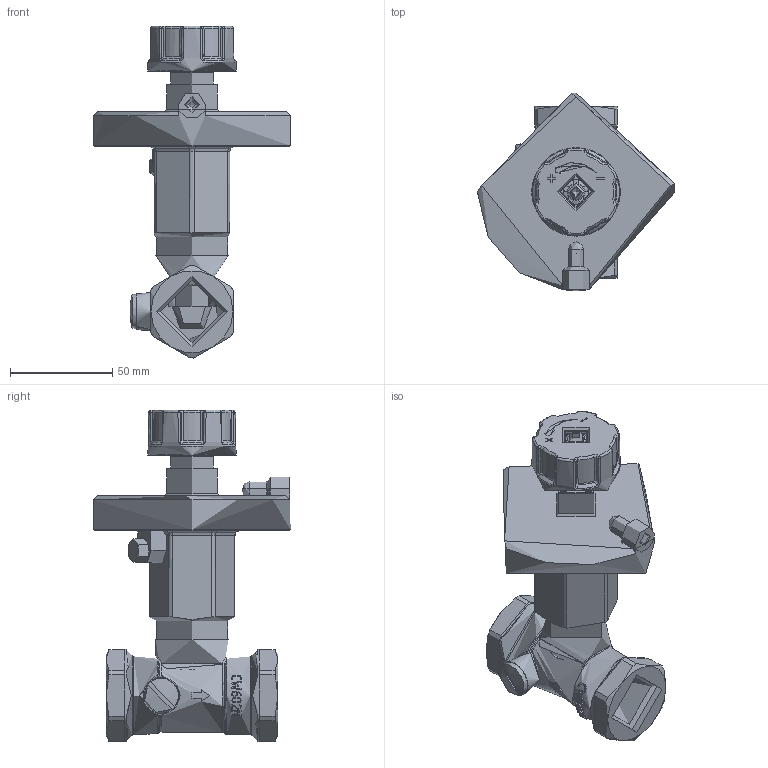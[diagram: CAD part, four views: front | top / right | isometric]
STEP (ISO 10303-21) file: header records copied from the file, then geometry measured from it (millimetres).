
FILE_DESCRIPTION(('STEP AP203'), '1');
FILE_NAME('VT.060.N.25006', '', ('UNSPECIFIED'), ('UNSPECIFIED'), 'C3D Converter', 'C3D Toolkit', '');
FILE_SCHEMA(('CONFIG_CONTROL_DESIGN'));
Length unit declared in the file: millimetre
Bounding box: 96.4 x 96.4 x 162.15 mm (x, y, z)
Topology: 1 solids, 9 shells, 1132 faces, 3052 edges, 1904 vertices
Faces by surface type: plane 386, extrusion 249, bspline 165, cylinder 163, cone 111, torus 55, sphere 3
Full cylindrical faces by diameter (mm): 3 x7, 4.1 x1, 5 x2, 5.1 x1, 5.5 x1, 6.1 x1, 6.5 x1, 6.561 x2, 6.6 x2, 7.2 x1, 7.7 x1, 7.723 x1, 8 x3, 8.5 x2, 8.9 x1, 11 x1, 11.445 x1, 13.3 x1, 14 x3, 14.2 x1, 14.3 x1, 16 x1, 16.1 x1, 17 x1, 21 x1, 24.7 x1, 30 x1, 30.292 x2, 34.5 x2, 35 x1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
Entity records: 64395 total; most frequent: CARTESIAN_POINT 39608, ORIENTED_EDGE 5794, DIRECTION 3851, EDGE_CURVE 2897, VERTEX_POINT 1891, B_SPLINE_CURVE_WITH_KNOTS 1447, AXIS2_PLACEMENT_3D 1299, EDGE_LOOP 1296
